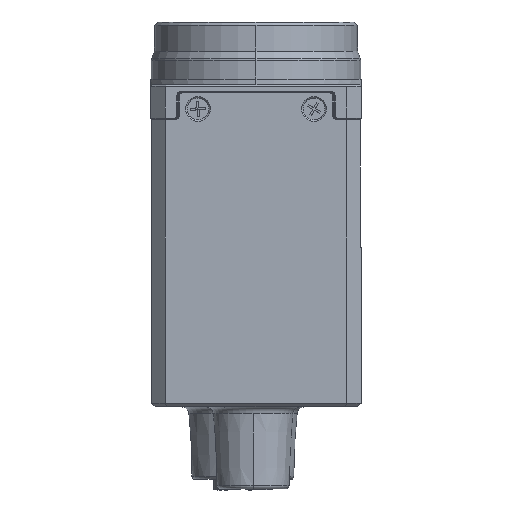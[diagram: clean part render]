
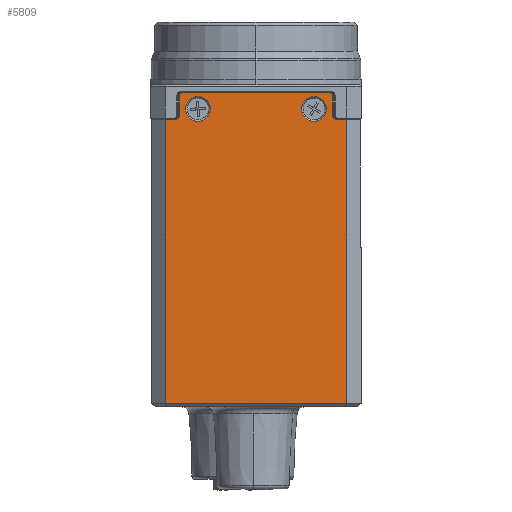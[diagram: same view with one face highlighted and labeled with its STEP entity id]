
A CAD part, left-side view. The second image highlights one B-rep face of the part: STEP entity #5809.
In plain terms, the highlighted planar face has unit normal (-1, 0, 0).
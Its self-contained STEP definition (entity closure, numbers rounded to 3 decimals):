
#25 = ORIENTED_EDGE ( 'NONE', *, *, #2208, .F. ) ;
#81 = EDGE_CURVE ( 'NONE', #9587, #22865, #22726, .T. ) ;
#163 = VERTEX_POINT ( 'NONE', #25444 ) ;
#587 = AXIS2_PLACEMENT_3D ( 'NONE', #19044, #19180, #5275 ) ;
#992 = CARTESIAN_POINT ( 'NONE',  ( -22., -12.5, -33.6 ) ) ;
#1311 = AXIS2_PLACEMENT_3D ( 'NONE', #9588, #17309, #11773 ) ;
#1361 = VERTEX_POINT ( 'NONE', #22087 ) ;
#1638 = PLANE ( 'NONE',  #18177 ) ;
#1826 = CIRCLE ( 'NONE', #6775, 1.7 ) ;
#1885 = EDGE_LOOP ( 'NONE', ( #14631, #15170, #10018, #15642, #25010, #23615, #24312, #12212, #13814, #15883, #4538, #4917 ) ) ;
#1923 = ORIENTED_EDGE ( 'NONE', *, *, #18372, .F. ) ;
#1967 = CARTESIAN_POINT ( 'NONE',  ( -22., 12.5, -33.6 ) ) ;
#2064 = CARTESIAN_POINT ( 'NONE',  ( -22., 11.2, 5.5 ) ) ;
#2208 = EDGE_CURVE ( 'NONE', #8900, #4847, #1826, .T. ) ;
#2337 = EDGE_CURVE ( 'NONE', #5443, #8101, #21048, .T. ) ;
#2375 = CARTESIAN_POINT ( 'NONE',  ( -22., -10.2, 9.2 ) ) ;
#2853 = CARTESIAN_POINT ( 'NONE',  ( -22., 8., 5.3 ) ) ;
#2879 = CARTESIAN_POINT ( 'NONE',  ( -22., 12.5, 5.5 ) ) ;
#3220 = CARTESIAN_POINT ( 'NONE',  ( -22., 11.2, 6.1 ) ) ;
#3320 = VERTEX_POINT ( 'NONE', #13642 ) ;
#3408 = CARTESIAN_POINT ( 'NONE',  ( -22., 12.5, 5.5 ) ) ;
#3656 = DIRECTION ( 'NONE',  ( 0., 0., -1. ) ) ;
#3746 = DIRECTION ( 'NONE',  ( 0., 0., 1. ) ) ;
#4034 = CARTESIAN_POINT ( 'NONE',  ( -22., -12.5, 5.6 ) ) ;
#4272 = VECTOR ( 'NONE', #5081, 1000. ) ;
#4538 = ORIENTED_EDGE ( 'NONE', *, *, #19067, .T. ) ;
#4847 = VERTEX_POINT ( 'NONE', #25221 ) ;
#4917 = ORIENTED_EDGE ( 'NONE', *, *, #2337, .T. ) ;
#5081 = DIRECTION ( 'NONE',  ( 0., -1., 0. ) ) ;
#5275 = DIRECTION ( 'NONE',  ( 0., 1., 0. ) ) ;
#5409 = CIRCLE ( 'NONE', #1311, 1.7 ) ;
#5443 = VERTEX_POINT ( 'NONE', #2064 ) ;
#5518 = CARTESIAN_POINT ( 'NONE',  ( -22., 10.6, 8.8 ) ) ;
#5565 = AXIS2_PLACEMENT_3D ( 'NONE', #20011, #24143, #14343 ) ;
#5686 = LINE ( 'NONE', #17273, #9540 ) ;
#5800 = DIRECTION ( 'NONE',  ( -1., 0., 0. ) ) ;
#5809 = ADVANCED_FACE ( 'NONE', ( #13379, #11442, #9391 ), #1638, .F. ) ;
#5970 = VECTOR ( 'NONE', #11523, 1000. ) ;
#6091 = DIRECTION ( 'NONE',  ( 0., 0., -1. ) ) ;
#6281 = DIRECTION ( 'NONE',  ( 0., 0., 1. ) ) ;
#6465 = ORIENTED_EDGE ( 'NONE', *, *, #24286, .F. ) ;
#6775 = AXIS2_PLACEMENT_3D ( 'NONE', #12726, #15391, #7299 ) ;
#6848 = EDGE_CURVE ( 'NONE', #10398, #22865, #16124, .T. ) ;
#6953 = VERTEX_POINT ( 'NONE', #2853 ) ;
#7299 = DIRECTION ( 'NONE',  ( 0., 0., 1. ) ) ;
#7449 = VERTEX_POINT ( 'NONE', #5518 ) ;
#7492 = AXIS2_PLACEMENT_3D ( 'NONE', #3220, #24353, #18121 ) ;
#7576 = DIRECTION ( 'NONE',  ( 0., 1., 0. ) ) ;
#7791 = EDGE_CURVE ( 'NONE', #10398, #9746, #19138, .T. ) ;
#8077 = DIRECTION ( 'NONE',  ( 1., 0., 0. ) ) ;
#8101 = VERTEX_POINT ( 'NONE', #2879 ) ;
#8512 = EDGE_CURVE ( 'NONE', #13440, #18514, #11691, .T. ) ;
#8714 = LINE ( 'NONE', #10542, #16354 ) ;
#8900 = VERTEX_POINT ( 'NONE', #19262 ) ;
#9233 = CARTESIAN_POINT ( 'NONE',  ( -22., -11.2, 5.5 ) ) ;
#9391 = FACE_OUTER_BOUND ( 'NONE', #1885, .T. ) ;
#9451 = EDGE_CURVE ( 'NONE', #12500, #7449, #22427, .T. ) ;
#9506 = CARTESIAN_POINT ( 'NONE',  ( -22., 14.4, 5.6 ) ) ;
#9540 = VECTOR ( 'NONE', #21273, 1000. ) ;
#9587 = VERTEX_POINT ( 'NONE', #1967 ) ;
#9588 = CARTESIAN_POINT ( 'NONE',  ( -22., 8., 7. ) ) ;
#9746 = VERTEX_POINT ( 'NONE', #14058 ) ;
#10018 = ORIENTED_EDGE ( 'NONE', *, *, #6848, .F. ) ;
#10365 = AXIS2_PLACEMENT_3D ( 'NONE', #15089, #5800, #11592 ) ;
#10398 = VERTEX_POINT ( 'NONE', #24262 ) ;
#10418 = AXIS2_PLACEMENT_3D ( 'NONE', #22731, #18748, #15250 ) ;
#10542 = CARTESIAN_POINT ( 'NONE',  ( -22., 12.5, 5.6 ) ) ;
#10782 = VECTOR ( 'NONE', #3746, 1000. ) ;
#10940 = CARTESIAN_POINT ( 'NONE',  ( -22., 10.2, 9.2 ) ) ;
#11442 = FACE_BOUND ( 'NONE', #11694, .T. ) ;
#11523 = DIRECTION ( 'NONE',  ( 0., 1., 0. ) ) ;
#11564 = CARTESIAN_POINT ( 'NONE',  ( -22., -10.6, 8.8 ) ) ;
#11592 = DIRECTION ( 'NONE',  ( 0., 0., 1. ) ) ;
#11691 = CIRCLE ( 'NONE', #587, 0.4 ) ;
#11694 = EDGE_LOOP ( 'NONE', ( #1923, #6465 ) ) ;
#11773 = DIRECTION ( 'NONE',  ( 0., 0., 1. ) ) ;
#12212 = ORIENTED_EDGE ( 'NONE', *, *, #20087, .T. ) ;
#12500 = VERTEX_POINT ( 'NONE', #10940 ) ;
#12726 = CARTESIAN_POINT ( 'NONE',  ( -22., -8., 7. ) ) ;
#13070 = CARTESIAN_POINT ( 'NONE',  ( -22., 10.6, 5.6 ) ) ;
#13379 = FACE_BOUND ( 'NONE', #24993, .T. ) ;
#13440 = VERTEX_POINT ( 'NONE', #11564 ) ;
#13615 = DIRECTION ( 'NONE',  ( 1., 0., 0. ) ) ;
#13642 = CARTESIAN_POINT ( 'NONE',  ( -22., 8., 8.7 ) ) ;
#13670 = CIRCLE ( 'NONE', #7492, 0.6 ) ;
#13814 = ORIENTED_EDGE ( 'NONE', *, *, #9451, .T. ) ;
#14058 = CARTESIAN_POINT ( 'NONE',  ( -22., -11.2, 5.5 ) ) ;
#14343 = DIRECTION ( 'NONE',  ( 0., 1., 0. ) ) ;
#14631 = ORIENTED_EDGE ( 'NONE', *, *, #16687, .F. ) ;
#15089 = CARTESIAN_POINT ( 'NONE',  ( -22., -8., 7. ) ) ;
#15170 = ORIENTED_EDGE ( 'NONE', *, *, #81, .T. ) ;
#15250 = DIRECTION ( 'NONE',  ( 0., 0., 1. ) ) ;
#15274 = AXIS2_PLACEMENT_3D ( 'NONE', #17612, #8077, #25347 ) ;
#15391 = DIRECTION ( 'NONE',  ( -1., 0., 0. ) ) ;
#15642 = ORIENTED_EDGE ( 'NONE', *, *, #7791, .T. ) ;
#15883 = ORIENTED_EDGE ( 'NONE', *, *, #22269, .T. ) ;
#16124 = LINE ( 'NONE', #4034, #25335 ) ;
#16354 = VECTOR ( 'NONE', #6281, 1000. ) ;
#16687 = EDGE_CURVE ( 'NONE', #9587, #8101, #8714, .T. ) ;
#17078 = DIRECTION ( 'NONE',  ( 0., 1., 0. ) ) ;
#17273 = CARTESIAN_POINT ( 'NONE',  ( -22., 14.4, 9.2 ) ) ;
#17309 = DIRECTION ( 'NONE',  ( -1., 0., 0. ) ) ;
#17405 = CIRCLE ( 'NONE', #10418, 1.7 ) ;
#17612 = CARTESIAN_POINT ( 'NONE',  ( -22., -11.2, 6.1 ) ) ;
#17791 = VECTOR ( 'NONE', #3656, 1000. ) ;
#18121 = DIRECTION ( 'NONE',  ( 0., 1., 0. ) ) ;
#18177 = AXIS2_PLACEMENT_3D ( 'NONE', #9506, #13615, #7576 ) ;
#18372 = EDGE_CURVE ( 'NONE', #3320, #6953, #5409, .T. ) ;
#18514 = VERTEX_POINT ( 'NONE', #2375 ) ;
#18748 = DIRECTION ( 'NONE',  ( -1., 0., 0. ) ) ;
#18812 = EDGE_CURVE ( 'NONE', #163, #13440, #19211, .T. ) ;
#19044 = CARTESIAN_POINT ( 'NONE',  ( -22., -10.2, 8.8 ) ) ;
#19067 = EDGE_CURVE ( 'NONE', #1361, #5443, #13670, .T. ) ;
#19138 = LINE ( 'NONE', #9233, #5970 ) ;
#19180 = DIRECTION ( 'NONE',  ( -1., 0., 0. ) ) ;
#19211 = LINE ( 'NONE', #21395, #10782 ) ;
#19262 = CARTESIAN_POINT ( 'NONE',  ( -22., -8., 8.7 ) ) ;
#19386 = CIRCLE ( 'NONE', #15274, 0.6 ) ;
#19500 = VECTOR ( 'NONE', #17078, 1000. ) ;
#20011 = CARTESIAN_POINT ( 'NONE',  ( -22., 10.2, 8.8 ) ) ;
#20078 = EDGE_CURVE ( 'NONE', #4847, #8900, #23532, .T. ) ;
#20087 = EDGE_CURVE ( 'NONE', #18514, #12500, #5686, .T. ) ;
#21048 = LINE ( 'NONE', #3408, #19500 ) ;
#21187 = CARTESIAN_POINT ( 'NONE',  ( -22., 14.4, -33.6 ) ) ;
#21273 = DIRECTION ( 'NONE',  ( 0., 1., 0. ) ) ;
#21395 = CARTESIAN_POINT ( 'NONE',  ( -22., -10.6, 5.6 ) ) ;
#22087 = CARTESIAN_POINT ( 'NONE',  ( -22., 10.6, 6.1 ) ) ;
#22269 = EDGE_CURVE ( 'NONE', #7449, #1361, #24927, .T. ) ;
#22427 = CIRCLE ( 'NONE', #5565, 0.4 ) ;
#22726 = LINE ( 'NONE', #21187, #4272 ) ;
#22731 = CARTESIAN_POINT ( 'NONE',  ( -22., 8., 7. ) ) ;
#22865 = VERTEX_POINT ( 'NONE', #992 ) ;
#22997 = EDGE_CURVE ( 'NONE', #9746, #163, #19386, .T. ) ;
#23532 = CIRCLE ( 'NONE', #10365, 1.7 ) ;
#23615 = ORIENTED_EDGE ( 'NONE', *, *, #18812, .T. ) ;
#23676 = ORIENTED_EDGE ( 'NONE', *, *, #20078, .F. ) ;
#24143 = DIRECTION ( 'NONE',  ( -1., 0., 0. ) ) ;
#24262 = CARTESIAN_POINT ( 'NONE',  ( -22., -12.5, 5.5 ) ) ;
#24286 = EDGE_CURVE ( 'NONE', #6953, #3320, #17405, .T. ) ;
#24312 = ORIENTED_EDGE ( 'NONE', *, *, #8512, .T. ) ;
#24353 = DIRECTION ( 'NONE',  ( 1., 0., 0. ) ) ;
#24927 = LINE ( 'NONE', #13070, #17791 ) ;
#24993 = EDGE_LOOP ( 'NONE', ( #25, #23676 ) ) ;
#25010 = ORIENTED_EDGE ( 'NONE', *, *, #22997, .T. ) ;
#25221 = CARTESIAN_POINT ( 'NONE',  ( -22., -8., 5.3 ) ) ;
#25335 = VECTOR ( 'NONE', #6091, 1000. ) ;
#25347 = DIRECTION ( 'NONE',  ( 0., 1., 0. ) ) ;
#25444 = CARTESIAN_POINT ( 'NONE',  ( -22., -10.6, 6.1 ) ) ;
